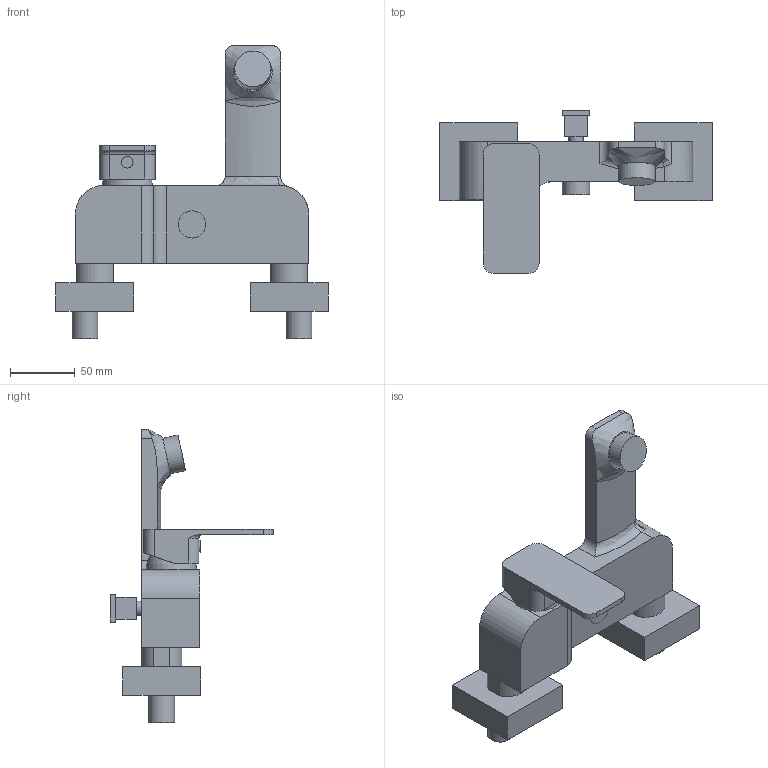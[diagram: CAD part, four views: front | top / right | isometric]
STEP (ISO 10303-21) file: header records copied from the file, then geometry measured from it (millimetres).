
FILE_DESCRIPTION(/* description */ ('LOFT Bateria wannowa ścienna (bez akcesoriów)'),/* implementation_level */ '2;1');
FILE_NAME(/* name */ 'C:\Nextcloud\02_biblioteki_cad\Valvex\Projekt\PROJECTS\Eksport\ETAP 1\2454930\2454930.stp',/* time_stamp */ '2021-06-17T15:39:40+02:00',/* author */ ('Cadventure'),/* organization */ (''),/* preprocessor_version */ 'ST-DEVELOPER v18.1',/* originating_system */ 'Autodesk Inventor 2020',/* authorisation */ '');
FILE_SCHEMA (('AUTOMOTIVE_DESIGN { 1 0 10303 214 3 1 1 }'));
Length unit declared in the file: millimetre
Products named in the file (1): 2454930
Bounding box: 210 x 125.75 x 226 mm (x, y, z)
Volume: 726253.5 mm3; surface area: 95248.6 mm2
Topology: 2 solids, 2 shells, 86 faces, 221 edges, 149 vertices
Faces by surface type: plane 53, cylinder 26, torus 3, bspline 3, sphere 1
Full cylindrical faces by diameter (mm): 9 x1, 11 x1, 20 x2, 21 x1, 28 x1
Entity records: 5422 total; most frequent: CARTESIAN_POINT 3248, DIRECTION 441, ORIENTED_EDGE 440, EDGE_CURVE 220, AXIS2_PLACEMENT_3D 152, VERTEX_POINT 149, LINE 137, VECTOR 137
